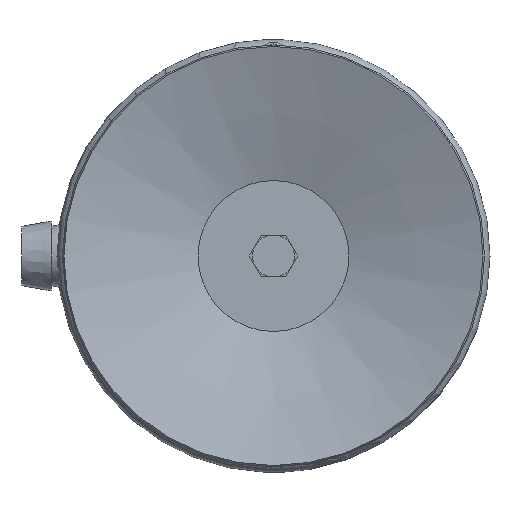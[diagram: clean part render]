
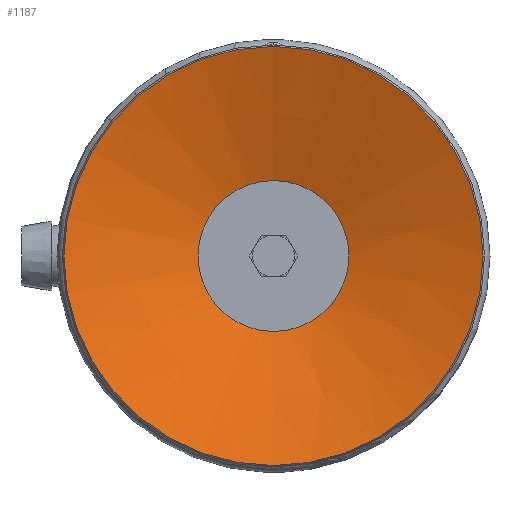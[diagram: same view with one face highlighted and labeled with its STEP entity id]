
A CAD part, front view. The second image highlights one B-rep face of the part: STEP entity #1187.
In plain terms, the highlighted conical face has half-angle 71.075 degrees and reference radius 15 mm.
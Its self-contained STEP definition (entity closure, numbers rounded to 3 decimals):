
#1187=ADVANCED_FACE('',(#2858,#2859),#2860,.F.);
#2858=FACE_BOUND('',#5092,.T.);
#2859=FACE_OUTER_BOUND('',#5093,.T.);
#2860=CONICAL_SURFACE('',#5094,15.0,1.24);
#5092=EDGE_LOOP('',(#8367));
#5093=EDGE_LOOP('',(#8368));
#5094=AXIS2_PLACEMENT_3D('',#8369,#8370,#8371);
#8367=ORIENTED_EDGE('',*,*,#14588,.T.);
#8368=ORIENTED_EDGE('',*,*,#14589,.T.);
#8369=CARTESIAN_POINT('',(0.,0.,0.0));
#8370=DIRECTION('',(0.0,0.,-1.0));
#8371=DIRECTION('',(0.0,1.0,0.));
#14588=EDGE_CURVE('',#17988,#17988,#17989,.T.);
#14589=EDGE_CURVE('',#17990,#17990,#17991,.T.);
#17988=VERTEX_POINT('',#23617);
#17989=CIRCLE('',#23618,5.4);
#17990=VERTEX_POINT('',#23619);
#17991=CIRCLE('',#23620,15.0);
#23617=CARTESIAN_POINT('',(-5.4,0.,3.291));
#23618=AXIS2_PLACEMENT_3D('',#29179,#29180,#29181);
#23619=CARTESIAN_POINT('',(0.,15.0,0.));
#23620=AXIS2_PLACEMENT_3D('',#29182,#29183,#29184);
#29179=CARTESIAN_POINT('',(0.,0.,3.291));
#29180=DIRECTION('',(0.,0.0,1.0));
#29181=DIRECTION('',(-1.0,0.0,0.));
#29182=CARTESIAN_POINT('',(0.,0.,0.0));
#29183=DIRECTION('',(0.0,0.,-1.0));
#29184=DIRECTION('',(0.0,1.0,0.));
